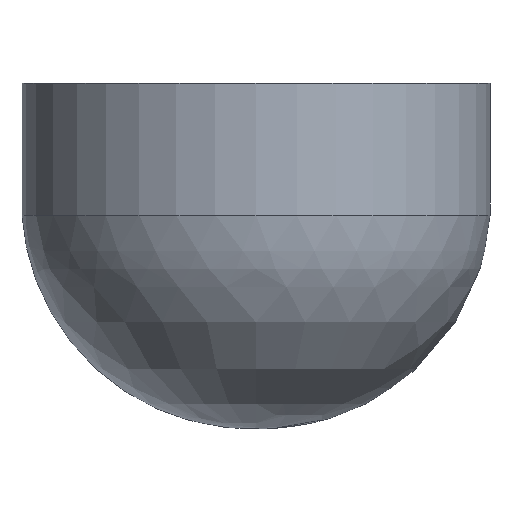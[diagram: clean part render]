
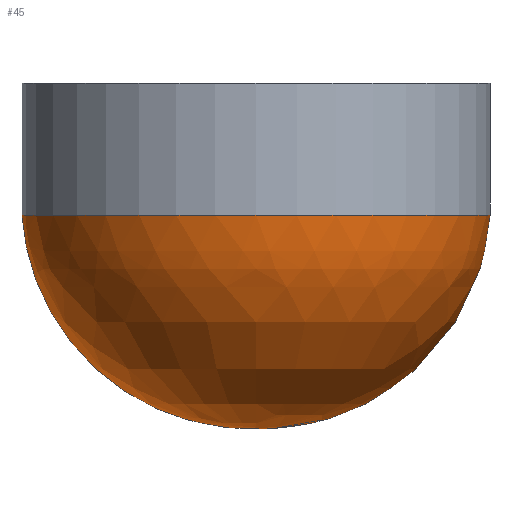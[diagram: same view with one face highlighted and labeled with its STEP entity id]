
A CAD part, front view. The second image highlights one B-rep face of the part: STEP entity #45.
In plain terms, the highlighted free-form (B-spline) face has degree [3, 3] with [4, 7] control points.
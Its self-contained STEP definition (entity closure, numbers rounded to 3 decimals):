
#34=(
BOUNDED_SURFACE()
B_SPLINE_SURFACE(3,3,((#144,#145,#146,#147,#148,#149,#150),(#151,#152,#153,
#154,#155,#156,#157),(#158,#159,#160,#161,#162,#163,#164),(#165,#166,#167,
#168,#169,#170,#171)),.UNSPECIFIED.,.F.,.T.,.F.)
B_SPLINE_SURFACE_WITH_KNOTS((4,4),(1,3,3,3,1),(0.,1.),(-0.5,0.,0.5,1.,1.5),
 .UNSPECIFIED.)
GEOMETRIC_REPRESENTATION_ITEM()
RATIONAL_B_SPLINE_SURFACE(((1.,0.333,0.333,1.,0.333,
0.333,1.),(0.814,0.271,0.271,
0.814,0.271,0.271,0.814),
(0.814,0.271,0.271,0.814,
0.271,0.271,0.814),(1.,0.333,
0.333,1.,0.333,0.333,1.)))
REPRESENTATION_ITEM('')
SURFACE()
);
#35=VERTEX_LOOP('',#83);
#45=ADVANCED_FACE('',(#56,#57),#34,.T.);
#56=FACE_BOUND('',#67,.T.);
#57=FACE_BOUND('',#35,.T.);
#67=EDGE_LOOP('',(#77));
#77=ORIENTED_EDGE('',*,*,#85,.T.);
#79=VERTEX_POINT('',#131);
#83=VERTEX_POINT('',#143);
#85=EDGE_CURVE('',#79,#79,#90,.T.);
#90=CIRCLE('',#96,4.565);
#96=AXIS2_PLACEMENT_3D('',#130,#109,#110);
#109=DIRECTION('',(0.,0.,-1.));
#110=DIRECTION('',(-1.,0.,0.));
#130=CARTESIAN_POINT('',(0.,0.,4.164));
#131=CARTESIAN_POINT('',(-4.565,0.,4.164));
#143=CARTESIAN_POINT('',(0.,0.,0.));
#144=CARTESIAN_POINT('',(0.,0.,0.));
#145=CARTESIAN_POINT('',(0.,0.,0.));
#146=CARTESIAN_POINT('',(0.,0.,0.));
#147=CARTESIAN_POINT('',(0.,0.,0.));
#148=CARTESIAN_POINT('',(0.,0.,0.));
#149=CARTESIAN_POINT('',(0.,0.,0.));
#150=CARTESIAN_POINT('',(0.,0.,0.));
#151=CARTESIAN_POINT('',(-2.531,0.,-0.068));
#152=CARTESIAN_POINT('',(-2.531,5.061,-0.068));
#153=CARTESIAN_POINT('',(2.531,5.061,-0.068));
#154=CARTESIAN_POINT('',(2.531,0.,-0.068));
#155=CARTESIAN_POINT('',(2.531,-5.061,-0.068));
#156=CARTESIAN_POINT('',(-2.531,-5.061,-0.068));
#157=CARTESIAN_POINT('',(-2.531,0.,-0.068));
#158=CARTESIAN_POINT('',(-4.401,0.,1.638));
#159=CARTESIAN_POINT('',(-4.401,8.802,1.638));
#160=CARTESIAN_POINT('',(4.401,8.802,1.638));
#161=CARTESIAN_POINT('',(4.401,0.,1.638));
#162=CARTESIAN_POINT('',(4.401,-8.802,1.638));
#163=CARTESIAN_POINT('',(-4.401,-8.802,1.638));
#164=CARTESIAN_POINT('',(-4.401,0.,1.638));
#165=CARTESIAN_POINT('',(-4.565,0.,4.164));
#166=CARTESIAN_POINT('',(-4.565,9.13,4.164));
#167=CARTESIAN_POINT('',(4.565,9.13,4.164));
#168=CARTESIAN_POINT('',(4.565,0.,4.164));
#169=CARTESIAN_POINT('',(4.565,-9.13,4.164));
#170=CARTESIAN_POINT('',(-4.565,-9.13,4.164));
#171=CARTESIAN_POINT('',(-4.565,0.,4.164));
